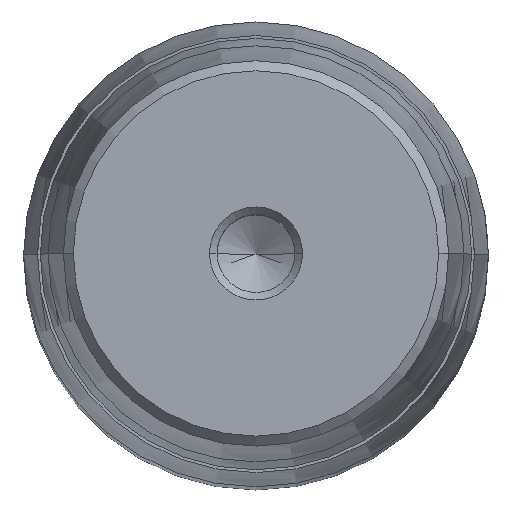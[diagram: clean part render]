
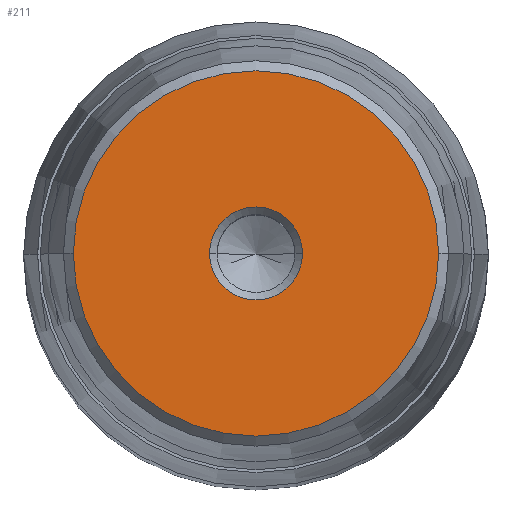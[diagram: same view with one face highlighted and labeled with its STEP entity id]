
A CAD part, top view. The second image highlights one B-rep face of the part: STEP entity #211.
In plain terms, the highlighted planar face has unit normal (0, 0, 1).
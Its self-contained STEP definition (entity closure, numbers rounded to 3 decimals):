
#136=CARTESIAN_POINT('Axis2P3D Location',(0.,0.,58.)) ;
#140=CARTESIAN_POINT('Vertex',(-5.,0.,58.)) ;
#142=CARTESIAN_POINT('Vertex',(5.,0.,58.)) ;
#179=CARTESIAN_POINT('Axis2P3D Location',(0.,5.,58.)) ;
#184=CARTESIAN_POINT('Axis2P3D Location',(0.,0.,58.)) ;
#188=CARTESIAN_POINT('Vertex',(-19.65,0.,58.)) ;
#190=CARTESIAN_POINT('Vertex',(19.65,0.,58.)) ;
#193=CARTESIAN_POINT('Axis2P3D Location',(0.,0.,58.)) ;
#202=CARTESIAN_POINT('Axis2P3D Location',(0.,0.,58.)) ;
#137=DIRECTION('Axis2P3D Direction',(0.,-0.,1.)) ;
#180=DIRECTION('Axis2P3D Direction',(0.,0.,-1.)) ;
#181=DIRECTION('Axis2P3D XDirection',(-1.,0.,0.)) ;
#185=DIRECTION('Axis2P3D Direction',(0.,0.,-1.)) ;
#194=DIRECTION('Axis2P3D Direction',(0.,0.,-1.)) ;
#203=DIRECTION('Axis2P3D Direction',(0.,0.,-1.)) ;
#138=AXIS2_PLACEMENT_3D('Circle Axis2P3D',#136,#137,$) ;
#182=AXIS2_PLACEMENT_3D('Plane Axis2P3D',#179,#180,#181) ;
#186=AXIS2_PLACEMENT_3D('Circle Axis2P3D',#184,#185,$) ;
#195=AXIS2_PLACEMENT_3D('Circle Axis2P3D',#193,#194,$) ;
#204=AXIS2_PLACEMENT_3D('Circle Axis2P3D',#202,#203,$) ;
#199=ORIENTED_EDGE('',*,*,#192,.F.) ;
#200=ORIENTED_EDGE('',*,*,#197,.F.) ;
#208=ORIENTED_EDGE('',*,*,#206,.T.) ;
#209=ORIENTED_EDGE('',*,*,#144,.T.) ;
#210=FACE_BOUND('',#207,.T.) ;
#211=ADVANCED_FACE('722-50x224x264',(#201,#210),#183,.F.) ;
#139=CIRCLE('generated circle',#138,5.) ;
#187=CIRCLE('generated circle',#186,19.65) ;
#196=CIRCLE('generated circle',#195,19.65) ;
#205=CIRCLE('generated circle',#204,5.) ;
#144=EDGE_CURVE('',#141,#143,#139,.F.) ;
#192=EDGE_CURVE('',#189,#191,#187,.T.) ;
#197=EDGE_CURVE('',#191,#189,#196,.T.) ;
#206=EDGE_CURVE('',#143,#141,#205,.T.) ;
#198=EDGE_LOOP('',(#199,#200)) ;
#207=EDGE_LOOP('',(#208,#209)) ;
#201=FACE_OUTER_BOUND('',#198,.T.) ;
#183=PLANE('Plane',#182) ;
#141=VERTEX_POINT('',#140) ;
#143=VERTEX_POINT('',#142) ;
#189=VERTEX_POINT('',#188) ;
#191=VERTEX_POINT('',#190) ;
